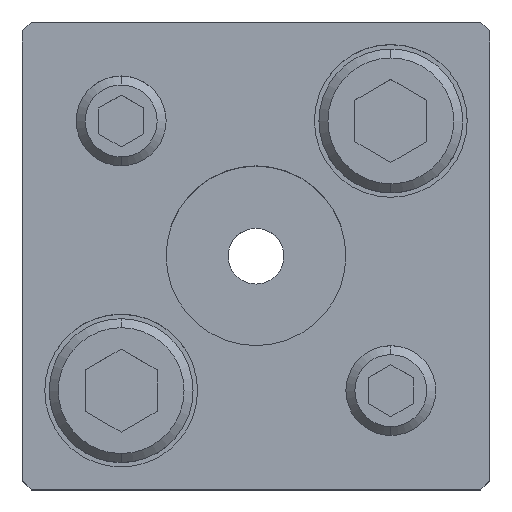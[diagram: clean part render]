
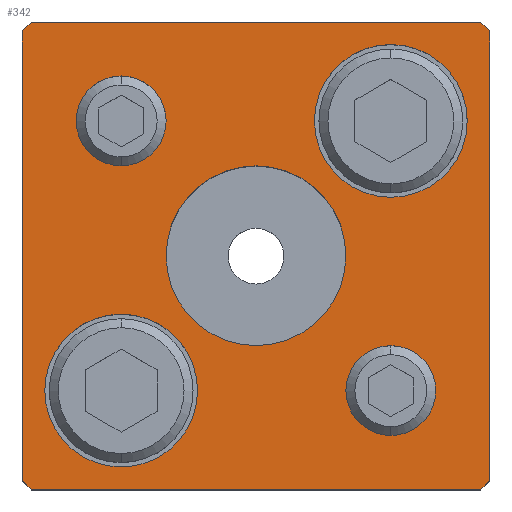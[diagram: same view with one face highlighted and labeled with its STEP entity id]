
A CAD part, top view. The second image highlights one B-rep face of the part: STEP entity #342.
In plain terms, the highlighted planar face has unit normal (0, 0, 1).
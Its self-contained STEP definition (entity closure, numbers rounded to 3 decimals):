
#119=PLANE('',#2798);
#192=FACE_BOUND('',#669,.T.);
#193=FACE_BOUND('',#670,.T.);
#194=FACE_BOUND('',#671,.T.);
#195=FACE_BOUND('',#672,.T.);
#196=FACE_BOUND('',#673,.T.);
#197=FACE_BOUND('',#674,.T.);
#342=ADVANCED_FACE('',(#192,#193,#194,#195,#196,#197),#119,.T.);
#669=EDGE_LOOP('',(#1119,#1120,#1121,#1122,#1123,#1124,#1125,#1126));
#670=EDGE_LOOP('',(#1127,#1128));
#671=EDGE_LOOP('',(#1129,#1130));
#672=EDGE_LOOP('',(#1131,#1132));
#673=EDGE_LOOP('',(#1133,#1134));
#674=EDGE_LOOP('',(#1135,#1136));
#857=CIRCLE('',#2762,5.);
#859=CIRCLE('',#2765,5.);
#861=CIRCLE('',#2768,5.);
#863=CIRCLE('',#2771,5.);
#877=CIRCLE('',#2792,8.5);
#878=CIRCLE('',#2793,8.5);
#879=CIRCLE('',#2794,8.5);
#880=CIRCLE('',#2795,8.5);
#881=CIRCLE('',#2796,10.);
#882=CIRCLE('',#2797,10.);
#1119=ORIENTED_EDGE('',*,*,#1999,.T.);
#1120=ORIENTED_EDGE('',*,*,#2000,.T.);
#1121=ORIENTED_EDGE('',*,*,#2001,.T.);
#1122=ORIENTED_EDGE('',*,*,#2002,.T.);
#1123=ORIENTED_EDGE('',*,*,#2003,.T.);
#1124=ORIENTED_EDGE('',*,*,#2004,.T.);
#1125=ORIENTED_EDGE('',*,*,#2005,.T.);
#1126=ORIENTED_EDGE('',*,*,#2006,.T.);
#1127=ORIENTED_EDGE('',*,*,#2007,.F.);
#1128=ORIENTED_EDGE('',*,*,#2008,.F.);
#1129=ORIENTED_EDGE('',*,*,#2009,.F.);
#1130=ORIENTED_EDGE('',*,*,#2010,.F.);
#1131=ORIENTED_EDGE('',*,*,#1979,.F.);
#1132=ORIENTED_EDGE('',*,*,#1975,.F.);
#1133=ORIENTED_EDGE('',*,*,#1973,.F.);
#1134=ORIENTED_EDGE('',*,*,#1969,.F.);
#1135=ORIENTED_EDGE('',*,*,#2011,.T.);
#1136=ORIENTED_EDGE('',*,*,#2012,.T.);
#1715=VERTEX_POINT('',#3983);
#1716=VERTEX_POINT('',#3984);
#1719=VERTEX_POINT('',#3995);
#1720=VERTEX_POINT('',#3996);
#1735=VERTEX_POINT('',#4043);
#1736=VERTEX_POINT('',#4044);
#1737=VERTEX_POINT('',#4046);
#1738=VERTEX_POINT('',#4048);
#1739=VERTEX_POINT('',#4050);
#1740=VERTEX_POINT('',#4052);
#1741=VERTEX_POINT('',#4054);
#1742=VERTEX_POINT('',#4056);
#1743=VERTEX_POINT('',#4059);
#1744=VERTEX_POINT('',#4060);
#1745=VERTEX_POINT('',#4063);
#1746=VERTEX_POINT('',#4064);
#1747=VERTEX_POINT('',#4067);
#1748=VERTEX_POINT('',#4068);
#1969=EDGE_CURVE('',#1715,#1716,#857,.T.);
#1973=EDGE_CURVE('',#1716,#1715,#859,.T.);
#1975=EDGE_CURVE('',#1719,#1720,#861,.T.);
#1979=EDGE_CURVE('',#1720,#1719,#863,.T.);
#1999=EDGE_CURVE('',#1735,#1736,#2297,.T.);
#2000=EDGE_CURVE('',#1736,#1737,#2298,.T.);
#2001=EDGE_CURVE('',#1737,#1738,#2299,.T.);
#2002=EDGE_CURVE('',#1738,#1739,#2300,.T.);
#2003=EDGE_CURVE('',#1739,#1740,#2301,.T.);
#2004=EDGE_CURVE('',#1740,#1741,#2302,.T.);
#2005=EDGE_CURVE('',#1741,#1742,#2303,.T.);
#2006=EDGE_CURVE('',#1742,#1735,#2304,.T.);
#2007=EDGE_CURVE('',#1743,#1744,#877,.T.);
#2008=EDGE_CURVE('',#1744,#1743,#878,.T.);
#2009=EDGE_CURVE('',#1745,#1746,#879,.T.);
#2010=EDGE_CURVE('',#1746,#1745,#880,.T.);
#2011=EDGE_CURVE('',#1747,#1748,#881,.T.);
#2012=EDGE_CURVE('',#1748,#1747,#882,.T.);
#2297=LINE('',#4042,#2513);
#2298=LINE('',#4045,#2514);
#2299=LINE('',#4047,#2515);
#2300=LINE('',#4049,#2516);
#2301=LINE('',#4051,#2517);
#2302=LINE('',#4053,#2518);
#2303=LINE('',#4055,#2519);
#2304=LINE('',#4057,#2520);
#2513=VECTOR('',#3221,1.);
#2514=VECTOR('',#3222,1.);
#2515=VECTOR('',#3223,1.);
#2516=VECTOR('',#3224,1.);
#2517=VECTOR('',#3225,1.);
#2518=VECTOR('',#3226,1.);
#2519=VECTOR('',#3227,1.);
#2520=VECTOR('',#3228,1.);
#2762=AXIS2_PLACEMENT_3D('',#3982,#3151,#3152);
#2765=AXIS2_PLACEMENT_3D('',#3991,#3159,#3160);
#2768=AXIS2_PLACEMENT_3D('',#3994,#3165,#3166);
#2771=AXIS2_PLACEMENT_3D('',#4003,#3173,#3174);
#2792=AXIS2_PLACEMENT_3D('',#4058,#3229,#3230);
#2793=AXIS2_PLACEMENT_3D('',#4061,#3231,#3232);
#2794=AXIS2_PLACEMENT_3D('',#4062,#3233,#3234);
#2795=AXIS2_PLACEMENT_3D('',#4065,#3235,#3236);
#2796=AXIS2_PLACEMENT_3D('',#4066,#3237,#3238);
#2797=AXIS2_PLACEMENT_3D('',#4069,#3239,#3240);
#2798=AXIS2_PLACEMENT_3D('',#4070,#3241,#3242);
#3151=DIRECTION('',(0.,0.,1.));
#3152=DIRECTION('',(1.,0.,0.));
#3159=DIRECTION('',(0.,0.,1.));
#3160=DIRECTION('',(-1.,0.,0.));
#3165=DIRECTION('',(0.,0.,1.));
#3166=DIRECTION('',(1.,0.,0.));
#3173=DIRECTION('',(0.,0.,1.));
#3174=DIRECTION('',(-1.,0.,0.));
#3221=DIRECTION('',(0.,1.,0.));
#3222=DIRECTION('',(-0.707,0.707,0.));
#3223=DIRECTION('',(-1.,0.,0.));
#3224=DIRECTION('',(-0.707,-0.707,0.));
#3225=DIRECTION('',(0.,-1.,0.));
#3226=DIRECTION('',(0.707,-0.707,0.));
#3227=DIRECTION('',(1.,0.,0.));
#3228=DIRECTION('',(0.707,0.707,0.));
#3229=DIRECTION('',(0.,0.,1.));
#3230=DIRECTION('',(1.,0.,0.));
#3231=DIRECTION('',(0.,0.,1.));
#3232=DIRECTION('',(-1.,0.,0.));
#3233=DIRECTION('',(0.,0.,1.));
#3234=DIRECTION('',(1.,0.,0.));
#3235=DIRECTION('',(0.,0.,1.));
#3236=DIRECTION('',(-1.,0.,0.));
#3237=DIRECTION('',(0.,0.,-1.));
#3238=DIRECTION('',(-1.,0.,0.));
#3239=DIRECTION('',(0.,0.,-1.));
#3240=DIRECTION('',(1.,0.,0.));
#3241=DIRECTION('',(0.,0.,1.));
#3242=DIRECTION('',(0.,-1.,0.));
#3982=CARTESIAN_POINT('',(15.,-15.,35.));
#3983=CARTESIAN_POINT('',(15.,-10.,35.));
#3984=CARTESIAN_POINT('',(15.,-20.,35.));
#3991=CARTESIAN_POINT('',(15.,-15.,35.));
#3994=CARTESIAN_POINT('',(-15.,15.,35.));
#3995=CARTESIAN_POINT('',(-15.,20.,35.));
#3996=CARTESIAN_POINT('',(-15.,10.,35.));
#4003=CARTESIAN_POINT('',(-15.,15.,35.));
#4042=CARTESIAN_POINT('',(26.,25.,35.));
#4043=CARTESIAN_POINT('',(26.,-25.,35.));
#4044=CARTESIAN_POINT('',(26.,25.,35.));
#4045=CARTESIAN_POINT('',(25.,26.,35.));
#4046=CARTESIAN_POINT('',(25.,26.,35.));
#4047=CARTESIAN_POINT('',(-25.,26.,35.));
#4048=CARTESIAN_POINT('',(-25.,26.,35.));
#4049=CARTESIAN_POINT('',(-25.,26.,35.));
#4050=CARTESIAN_POINT('',(-26.,25.,35.));
#4051=CARTESIAN_POINT('',(-26.,-25.,35.));
#4052=CARTESIAN_POINT('',(-26.,-25.,35.));
#4053=CARTESIAN_POINT('',(-26.,-25.,35.));
#4054=CARTESIAN_POINT('',(-25.,-26.,35.));
#4055=CARTESIAN_POINT('',(25.,-26.,35.));
#4056=CARTESIAN_POINT('',(25.,-26.,35.));
#4057=CARTESIAN_POINT('',(25.,-26.,35.));
#4058=CARTESIAN_POINT('',(-15.,-15.,35.));
#4059=CARTESIAN_POINT('',(-15.,-6.5,35.));
#4060=CARTESIAN_POINT('',(-15.,-23.5,35.));
#4061=CARTESIAN_POINT('',(-15.,-15.,35.));
#4062=CARTESIAN_POINT('',(15.,15.,35.));
#4063=CARTESIAN_POINT('',(15.,23.5,35.));
#4064=CARTESIAN_POINT('',(15.,6.5,35.));
#4065=CARTESIAN_POINT('',(15.,15.,35.));
#4066=CARTESIAN_POINT('',(0.,0.,35.));
#4067=CARTESIAN_POINT('',(0.,10.,35.));
#4068=CARTESIAN_POINT('',(0.,-10.,35.));
#4069=CARTESIAN_POINT('',(0.,0.,35.));
#4070=CARTESIAN_POINT('',(26.,-25.,35.));
